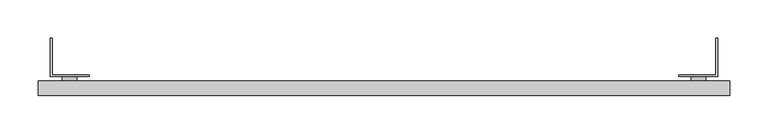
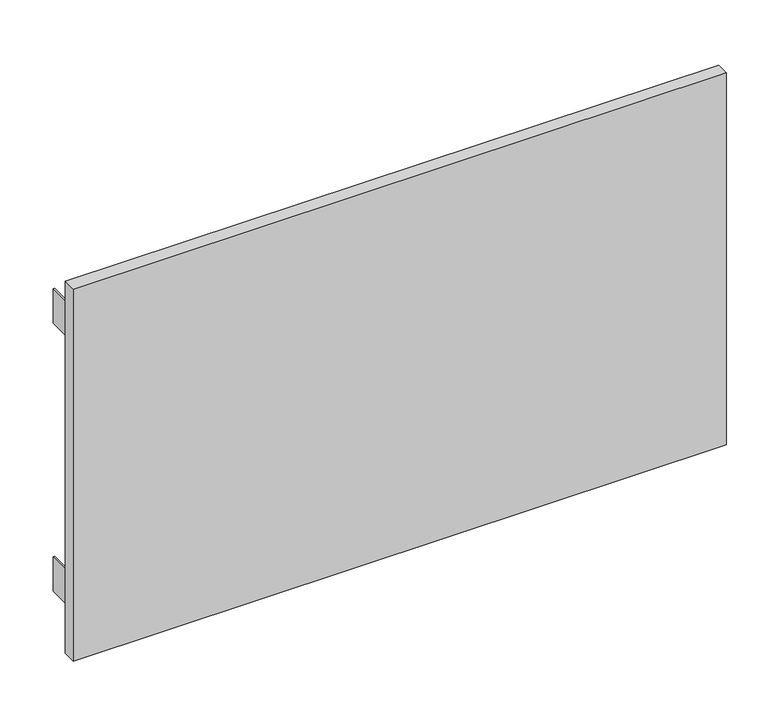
"""IFC4 building model written with IfcOpenShell, lengths in millimetres: furniture geometry, Geiger_GeigerOneCasegoods_KneespaceCoverPanel : TFL 35.75Wx 0.75Dx 21.75H."""

from ifc_helpers import new_model, si_unit, point, frame, frame_2d, origin, origin_with_axes, place, context, project, spatial, polyline, circle_curve, trimmed, segment, composite_curve, outline, extrude, source, transform, mapped, element, save


def furniture_3fb710ad(model_context):
    return source(origin(), model_context, "Body", "SweptSolid", [
        extrude(outline(composite_curve([segment(trimmed(circle_curve(frame_2d((469.9984, 866.1880375)), 9.2650615), [point((469.9984, 856.922976))], [point((469.9984, 875.453099))], False, "CARTESIAN"), True, "CONTINUOUS"), segment(trimmed(circle_curve(frame_2d((469.9984, 866.1880375)), 9.2650615), [point((469.9984, 875.453099))], [point((469.9984, 856.922976))], False, "CARTESIAN"), True, "CONTINUOUS")], self_intersect=False)), frame((0.0, 0.0, 0.0), z_axis=(0.0, 1.0, 0.0), x_axis=(0.0, 0.0, 1.0)), (0.0, 0.0, 1.0), 6.0),
        extrude(outline(composite_curve([segment(trimmed(circle_curve(frame_2d((469.9984, 41.2015625)), 9.2650615), [point((469.9984, 31.936501))], [point((469.9984, 50.466624))], False, "CARTESIAN"), True, "CONTINUOUS"), segment(trimmed(circle_curve(frame_2d((469.9984, 41.2015625)), 9.2650615), [point((469.9984, 50.466624))], [point((469.9984, 31.936501))], False, "CARTESIAN"), True, "CONTINUOUS")], self_intersect=False)), frame((0.0, 0.0, 0.0), z_axis=(0.0, 1.0, 0.0), x_axis=(0.0, 0.0, 1.0)), (0.0, 0.0, 1.0), 6.0),
        extrude(outline(composite_curve([segment(trimmed(circle_curve(frame_2d((76.0, 866.1867475)), 9.2890452), [point((76.0, 856.8977022))], [point((76.0, 875.4757927))], False, "CARTESIAN"), True, "CONTINUOUS"), segment(trimmed(circle_curve(frame_2d((76.0, 866.1867475)), 9.2890452), [point((76.0, 875.4757927))], [point((76.0, 856.8977022))], False, "CARTESIAN"), True, "CONTINUOUS")], self_intersect=False)), frame((0.0, 0.0, 0.0), z_axis=(0.0, 1.0, 0.0), x_axis=(0.0, 0.0, 1.0)), (0.0, 0.0, 1.0), 6.0),
        extrude(outline(composite_curve([segment(trimmed(circle_curve(frame_2d((76.0, 41.2028525)), 9.2890452), [point((76.0, 31.9138073))], [point((76.0, 50.4918978))], False, "CARTESIAN"), True, "CONTINUOUS"), segment(trimmed(circle_curve(frame_2d((76.0, 41.2028525)), 9.2890452), [point((76.0, 50.4918978))], [point((76.0, 31.9138073))], False, "CARTESIAN"), True, "CONTINUOUS")], self_intersect=False)), frame((0.0, 0.0, 0.0), z_axis=(0.0, 1.0, 0.0), x_axis=(0.0, 0.0, 1.0)), (0.0, 0.0, 1.0), 6.0),
        extrude(outline(polyline([(18.38125, 56.8), (18.38125, 8.38125), (66.8, 8.38125), (66.8, 6.0), (16.0, 6.0), (16.0, 56.8), (18.38125, 56.8)])), frame((0.0, 0.0, 444.5984), z_axis=(0.0, 0.0, 1.0), x_axis=(1.0, 0.0, 0.0)), (0.0, 0.0, 1.0), 50.8),
        extrude(outline(polyline([(889.00835, 8.38125), (889.00835, 56.8), (891.3896, 56.8), (891.3896, 6.0), (840.5896, 6.0), (840.5896, 8.38125), (889.00835, 8.38125)])), frame((0.0, 0.0, 444.5984), z_axis=(0.0, 0.0, 1.0), x_axis=(1.0, 0.0, 0.0)), (0.0, 0.0, 1.0), 50.8),
        extrude(outline(polyline([(18.38125, 56.8), (18.38125, 8.38125), (66.8, 8.38125), (66.8, 6.0), (16.0, 6.0), (16.0, 56.8), (18.38125, 56.8)])), frame((0.0, 0.0, 50.6), z_axis=(0.0, 0.0, 1.0), x_axis=(1.0, 0.0, 0.0)), (0.0, 0.0, 1.0), 50.8),
        extrude(outline(polyline([(891.3896, 6.0), (840.5896, 6.0), (840.5896, 8.38125), (889.00835, 8.38125), (889.00835, 56.8), (891.3896, 56.8), (891.3896, 6.0)])), frame((0.0, 0.0, 50.6), z_axis=(0.0, 0.0, 1.0), x_axis=(1.0, 0.0, 0.0)), (0.0, 0.0, 1.0), 50.8),
        extrude(outline(polyline([(907.3896, 0.0), (907.3896, -19.05), (0.0, -19.05), (0.0, 0.0), (907.3896, 0.0)])), origin_with_axes(), (0.0, 0.0, 1.0), 545.9984),
    ])


if __name__ == "__main__":
    model = new_model("IFC4")
    model_context = context("Model", 3, world=origin())
    ifc_project = project(units=[si_unit("LENGTHUNIT", "METRE", prefix="MILLI")], contexts=[model_context])
    site = spatial("IfcSite", under=ifc_project)
    building = spatial("IfcBuilding", under=site)
    placement = place(None, origin())
    furniture_shape = furniture_3fb710ad(model_context)
    element("IfcFurniture", 1, ObjectType="Geiger_GeigerOneCasegoods_KneespaceCoverPanel : TFL 35.75Wx 0.75Dx 21.75H", at=placement, inside=building, context=model_context, shape_type="MappedRepresentation", body=[
        mapped(furniture_shape, transform((0.0, 0.0, 0.0), x_axis=(1.0, 0.0, 0.0), y_axis=(0.0, 1.0, 0.0), z_axis=(0.0, 0.0, 1.0))),
    ])
    save(model, "model.ifc")
